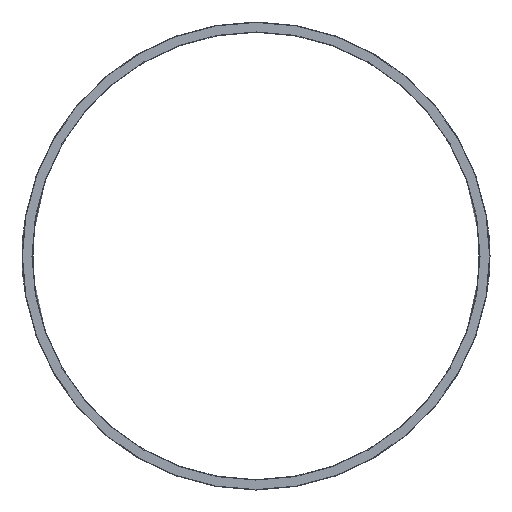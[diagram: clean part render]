
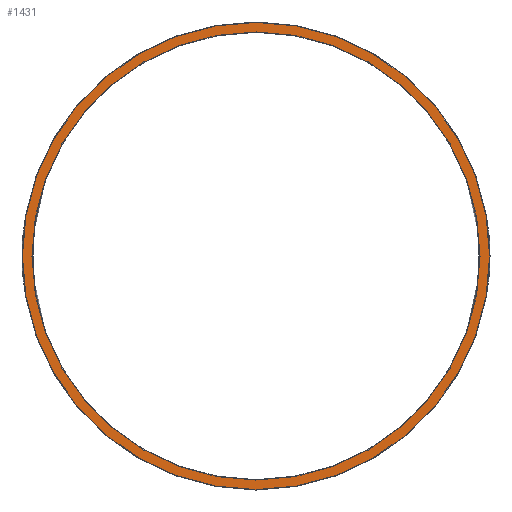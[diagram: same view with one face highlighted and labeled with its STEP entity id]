
A CAD part, left-side view. The second image highlights one B-rep face of the part: STEP entity #1431.
In plain terms, the highlighted planar face has unit normal (-1, 0, 0).
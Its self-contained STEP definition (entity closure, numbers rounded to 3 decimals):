
#1400=CARTESIAN_POINT('',(-50.25,54.1,0.));
#1401=VERTEX_POINT('',#1400);
#1402=CARTESIAN_POINT('',(-50.25,0.0,0.0));
#1403=DIRECTION('',(-1.0,0.0,0.0));
#1404=DIRECTION('',(0.0,-1.0,0.0));
#1405=AXIS2_PLACEMENT_3D('',#1402,#1403,#1404);
#1406=CIRCLE('',#1405,54.1);
#1407=EDGE_CURVE('',#1401,#1401,#1406,.T.);
#1412=CARTESIAN_POINT('',(-50.25,55.25,0.0));
#1413=DIRECTION('',(-1.0,0.0,0.0));
#1414=DIRECTION('',(0.0,0.0,1.0));
#1415=AXIS2_PLACEMENT_3D('',#1412,#1413,#1414);
#1416=PLANE('',#1415);
#1417=CARTESIAN_POINT('',(-50.25,56.4,0.));
#1418=VERTEX_POINT('',#1417);
#1419=CARTESIAN_POINT('',(-50.25,0.0,0.0));
#1420=DIRECTION('',(1.0,0.0,0.0));
#1421=DIRECTION('',(0.0,-1.0,0.0));
#1422=AXIS2_PLACEMENT_3D('',#1419,#1420,#1421);
#1423=CIRCLE('',#1422,56.4);
#1424=EDGE_CURVE('',#1418,#1418,#1423,.T.);
#1425=ORIENTED_EDGE('',*,*,#1424,.F.);
#1426=EDGE_LOOP('',(#1425));
#1427=FACE_OUTER_BOUND('',#1426,.T.);
#1428=ORIENTED_EDGE('',*,*,#1407,.F.);
#1429=EDGE_LOOP('',(#1428));
#1430=FACE_BOUND('',#1429,.T.);
#1431=ADVANCED_FACE('',(#1427,#1430),#1416,.T.);
